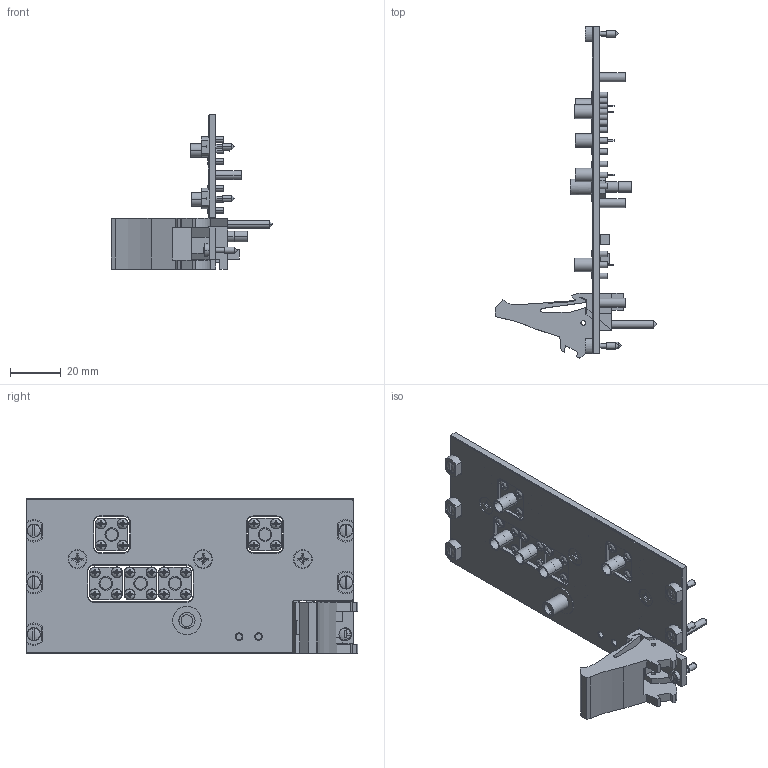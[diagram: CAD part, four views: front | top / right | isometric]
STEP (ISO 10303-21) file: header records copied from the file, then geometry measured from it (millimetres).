
FILE_DESCRIPTION((''),'2;1');
FILE_NAME('CU_PXI-5660','2009-12-30T',('jjorden'),(''),'PRO/ENGINEER BY PARAMETRIC TECHNOLOGY CORPORATION, 2006080','PRO/ENGINEER BY PARAMETRIC TECHNOLOGY CORPORATION, 2006080','');
FILE_SCHEMA(('CONFIG_CONTROL_DESIGN'));
Length unit declared in the file: inch
Products named in the file (1): CU_PXI-5660
Bounding box: 63.53 x 130.31 x 60.66 mm (x, y, z)
Volume: 30185.3 mm3; surface area: 28069.2 mm2
Topology: 8 solids, 8 shells, 1800 faces, 4608 edges, 2483 vertices
Faces by surface type: plane 834, bspline 466, cylinder 369, sphere 56, torus 42, cone 33
Entity records: 59988 total; most frequent: CARTESIAN_POINT 20879, ORIENTED_EDGE 8264, DIRECTION 7361, EDGE_CURVE 4132, VERTEX_POINT 2939, AXIS2_PLACEMENT_3D 2662, VECTOR 2037, LINE 2037
